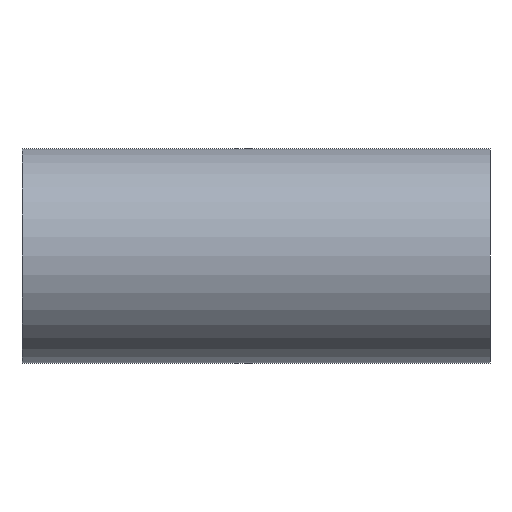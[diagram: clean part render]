
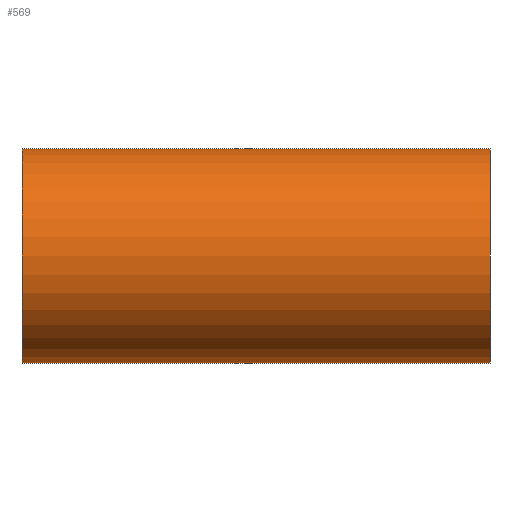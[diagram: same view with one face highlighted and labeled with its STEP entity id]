
A CAD part, front view. The second image highlights one B-rep face of the part: STEP entity #569.
In plain terms, the highlighted cylindrical face has radius 50.8 mm (diameter 101.6 mm), a partial arc.
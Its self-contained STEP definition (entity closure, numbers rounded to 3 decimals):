
#8 = CARTESIAN_POINT ( 'NONE',  ( 110.7, 0., -50.8 ) ) ;
#41 = EDGE_CURVE ( 'NONE', #413, #275, #211, .T. ) ;
#139 = AXIS2_PLACEMENT_3D ( 'NONE', #403, #346, #364 ) ;
#165 = AXIS2_PLACEMENT_3D ( 'NONE', #255, #201, #404 ) ;
#166 = LINE ( 'NONE', #253, #420 ) ;
#201 = DIRECTION ( 'NONE',  ( 1., 0., 0. ) ) ;
#205 = ORIENTED_EDGE ( 'NONE', *, *, #41, .F. ) ;
#211 = LINE ( 'NONE', #534, #245 ) ;
#222 = ORIENTED_EDGE ( 'NONE', *, *, #517, .T. ) ;
#229 = AXIS2_PLACEMENT_3D ( 'NONE', #411, #307, #310 ) ;
#245 = VECTOR ( 'NONE', #285, 1000. ) ;
#248 = VERTEX_POINT ( 'NONE', #427 ) ;
#252 = VERTEX_POINT ( 'NONE', #494 ) ;
#253 = CARTESIAN_POINT ( 'NONE',  ( 254.384, 0., 50.8 ) ) ;
#255 = CARTESIAN_POINT ( 'NONE',  ( -110.7, 0., 0. ) ) ;
#275 = VERTEX_POINT ( 'NONE', #599 ) ;
#277 = EDGE_CURVE ( 'NONE', #252, #275, #508, .T. ) ;
#283 = EDGE_CURVE ( 'NONE', #248, #252, #166, .T. ) ;
#285 = DIRECTION ( 'NONE',  ( -1., 0., 0. ) ) ;
#307 = DIRECTION ( 'NONE',  ( -1., 0., 0. ) ) ;
#310 = DIRECTION ( 'NONE',  ( 0., 0., 1. ) ) ;
#338 = CYLINDRICAL_SURFACE ( 'NONE', #139, 50.8 ) ;
#346 = DIRECTION ( 'NONE',  ( -1., 0., 0. ) ) ;
#354 = DIRECTION ( 'NONE',  ( -1., 0., 0. ) ) ;
#360 = ORIENTED_EDGE ( 'NONE', *, *, #277, .T. ) ;
#364 = DIRECTION ( 'NONE',  ( 0., 0., 1. ) ) ;
#403 = CARTESIAN_POINT ( 'NONE',  ( 254.384, 0., 0. ) ) ;
#404 = DIRECTION ( 'NONE',  ( 0., 0., 1. ) ) ;
#411 = CARTESIAN_POINT ( 'NONE',  ( 110.7, 0., 0. ) ) ;
#413 = VERTEX_POINT ( 'NONE', #8 ) ;
#420 = VECTOR ( 'NONE', #354, 1000. ) ;
#427 = CARTESIAN_POINT ( 'NONE',  ( 110.7, 0., 50.8 ) ) ;
#434 = EDGE_LOOP ( 'NONE', ( #205, #222, #617, #360 ) ) ;
#494 = CARTESIAN_POINT ( 'NONE',  ( -110.7, 0., 50.8 ) ) ;
#508 = CIRCLE ( 'NONE', #165, 50.8 ) ;
#517 = EDGE_CURVE ( 'NONE', #413, #248, #554, .T. ) ;
#534 = CARTESIAN_POINT ( 'NONE',  ( 254.384, 0., -50.8 ) ) ;
#554 = CIRCLE ( 'NONE', #229, 50.8 ) ;
#569 = ADVANCED_FACE ( 'NONE', ( #587 ), #338, .T. ) ;
#587 = FACE_OUTER_BOUND ( 'NONE', #434, .T. ) ;
#599 = CARTESIAN_POINT ( 'NONE',  ( -110.7, 0., -50.8 ) ) ;
#617 = ORIENTED_EDGE ( 'NONE', *, *, #283, .T. ) ;
